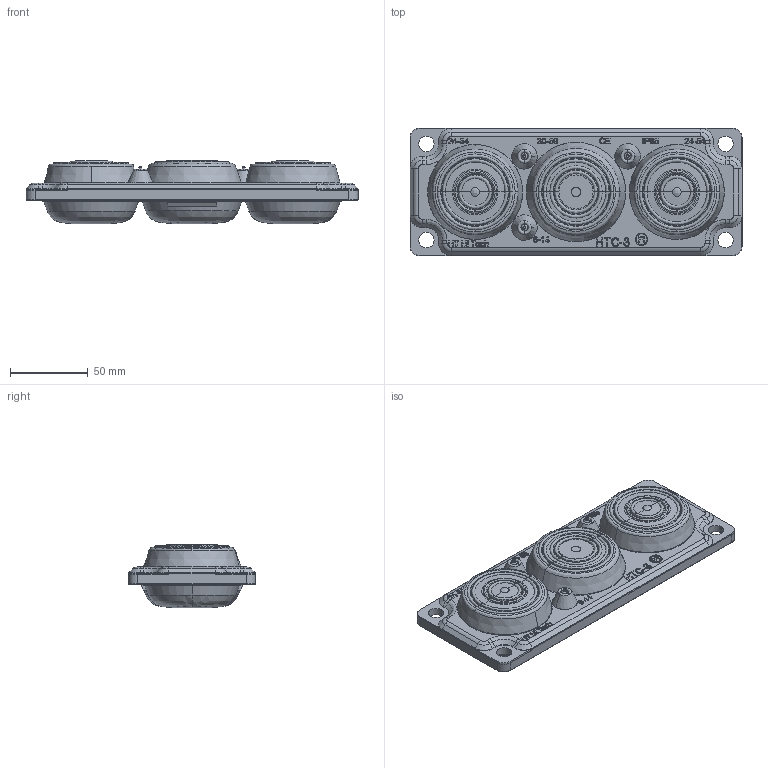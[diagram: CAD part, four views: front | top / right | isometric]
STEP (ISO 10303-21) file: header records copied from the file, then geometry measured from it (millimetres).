
FILE_DESCRIPTION (( 'STEP AP203' ), '1' );
FILE_NAME ('EHTC213G_V1.step', '2013-02-12T11:25:46', ( '' ), ( '' ), 'SwSTEP 2.0', 'SolidWorks 2011', '' );
FILE_SCHEMA (( 'CONFIG_CONTROL_DESIGN' ));
Length unit declared in the file: millimetre
Products named in the file (1): EHTC213G_V1
Bounding box: 214 x 82 x 40.88 mm (x, y, z)
Surface area: 86446.3 mm2 (no closed solid volume)
Topology: 0 solids, 2 shells, 913 faces, 2232 edges, 1397 vertices
Faces by surface type: plane 354, bspline 287, cone 170, cylinder 88, torus 14
Entity records: 40102 total; most frequent: CARTESIAN_POINT 20033, ORIENTED_EDGE 4462, DIRECTION 3653, EDGE_CURVE 2232, VERTEX_POINT 1397, AXIS2_PLACEMENT_3D 1250, LINE 1153, VECTOR 1153
